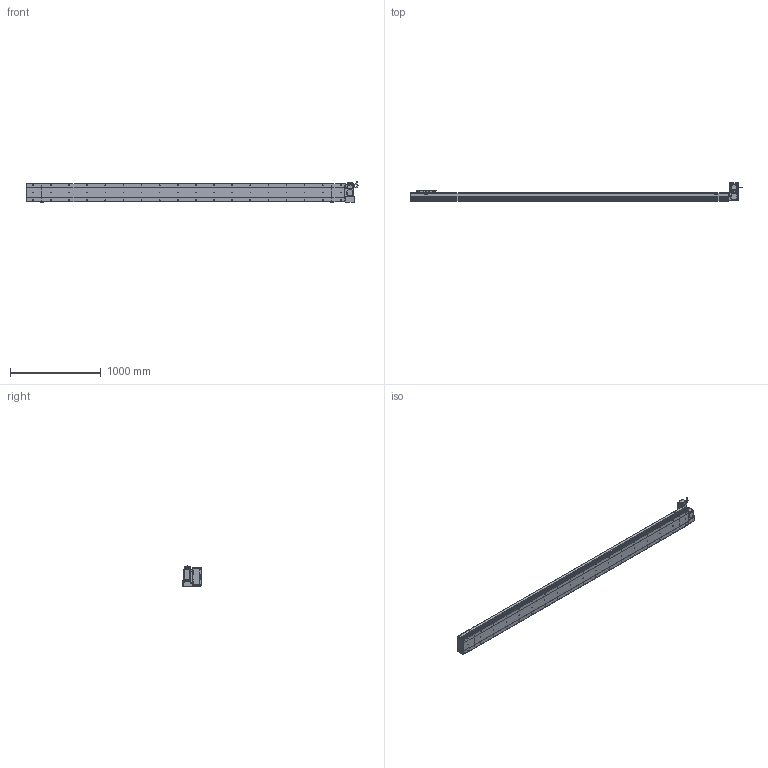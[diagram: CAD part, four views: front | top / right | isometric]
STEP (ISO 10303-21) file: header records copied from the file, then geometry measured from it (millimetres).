
FILE_DESCRIPTION (( 'STEP AP214' ), '1' );
FILE_NAME ('D20 CBH RT S3200.STEP', '2010-06-30T10:45:21', ( 'Conseil Régional Haute-Normandie' ), ( 'Conseil Régional Haute-Normandie' ), 'SwSTEP 2.0', 'SolidWorks 2010', '' );
FILE_SCHEMA (( 'AUTOMOTIVE_DESIGN' ));
Length unit declared in the file: millimetre
Products named in the file (31): Plaque de Bout Tail D20_Default; Plaque De Serrage D20_Default; Glissiere_Default; Couvercle_Default; Chariot D20_Default; Tail D20_Default; vis M5 L15_Default; Support Chariot D20_Default; D20 CBH RT S3200; Corp Tail D20_Default; Couvercle RT_Default; Corp Tail D20 RT_Default; Head RT_Default; Support moteur RT_Default; Plaque De Serrage D20 RT_Default; Plaque de Bout Head D20 RT_Default; corps 90BLDC125A-640; avant 90BLDC125A-640; Moteur motionking 90BLDC125A-640; Conecteur_Default; Conecteur2_Default; codeur 90BLDC125-640; Cache Support Moteur RT_Default; ecrou_Default; vis M5 L30_Default; Corp D20 S3200_Default; Rondelle Cache D20 RT_Default; vis M5 L47_Default; Couvercle S3200_Default; Corp S3200_Default
Assembly tree (68 placements, depth 4):
  D20 CBH RT S3200
    Tail D20_Default
      Plaque de Bout Tail D20_Default
      vis M5 L15_Default  x6
      Corp Tail D20_Default
      Plaque De Serrage D20_Default
      Couvercle_Default
    Head RT_Default
      vis M5 L47_Default  x4
      vis M5 L15_Default  x14
      Plaque De Serrage D20 RT_Default
      Rondelle Cache D20 RT_Default  x3
      vis M5 L30_Default  x4
      Moteur motionking 90BLDC125A-640
        corps 90BLDC125A-640
        Conecteur_Default
        codeur 90BLDC125-640
        avant 90BLDC125A-640
        Conecteur2_Default
      Corp Tail D20 RT_Default
      Cache Support Moteur RT_Default
      ecrou_Default  x4
      Plaque de Bout Head D20 RT_Default
      Couvercle RT_Default
      Support moteur RT_Default
    Corp D20 S3200_Default
      Couvercle S3200_Default
      Corp S3200_Default
    Chariot D20_Default
      Chariot D20_Default
      vis M5 L15_Default  x8
      Glissiere_Default
      Support Chariot D20_Default
Bounding box: 3664.45 x 206.5 x 229.7 mm (x, y, z)
Volume: 24505621.6 mm3; surface area: 4702556.3 mm2
Topology: 105 solids, 105 shells, 3871 faces, 9606 edges, 6238 vertices
Faces by surface type: plane 2146, bspline 806, cylinder 748, torus 95, cone 72, sphere 4
Entity records: 160862 total; most frequent: CARTESIAN_POINT 82547, ORIENTED_EDGE 15480, DIRECTION 11902, EDGE_CURVE 7740, VERTEX_POINT 5122, LINE 4972, VECTOR 4972, AXIS2_PLACEMENT_3D 3465
